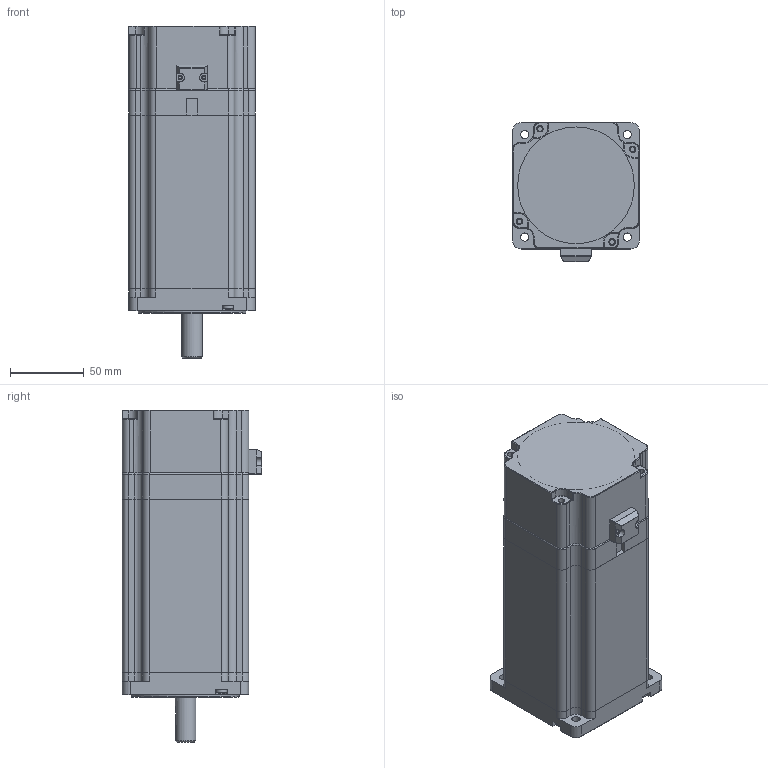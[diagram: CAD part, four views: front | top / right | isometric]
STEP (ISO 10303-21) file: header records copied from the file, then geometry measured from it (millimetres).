
FILE_DESCRIPTION (( 'STEP AP203' ), '1' );
FILE_NAME ('YK86HB156-4432K-01SC.STEP', '2020-01-03T08:14:30', ( '' ), ( '' ), 'SwSTEP 2.0', 'SolidWorks 2014', '' );
FILE_SCHEMA (( 'CONFIG_CONTROL_DESIGN' ));
Length unit declared in the file: millimetre
Products named in the file (19): 敕遠M4.0蹟佪; YK286ECXXA1粣郋; 86BK-揤盄輸; YK286ECXXA1隅赽; YK286ECXXA1綴裔; YK286ECXXA1ヶ裔; 86BK-綴欶; 86BK; YK86HB156-4432K-01SC
Assembly tree (11 placements, depth 3):
  敕遠M4.0蹟佪
  敕遠M4.0蹟佪
  86BK-揤盄輸
  YK286ECXXA1粣郋
  YK286ECXXA1ヶ裔
Bounding box: 86 x 95 x 225.5 mm (x, y, z)
Volume: 771966.3 mm3; surface area: 164047.5 mm2
Topology: 10 solids, 10 shells, 533 faces, 1257 edges, 741 vertices
Faces by surface type: plane 243, cylinder 196, torus 48, bspline 17, cone 16, sphere 13
Full cylindrical faces by diameter (mm): 2.05 x2, 3 x2, 3.3 x8, 4 x4, 4.4 x4, 4.5 x4, 5.5 x4, 7.2 x4, 14 x1, 15 x1, 16 x2, 35 x2, 55.96 x1, 73 x1
Entity records: 14856 total; most frequent: CARTESIAN_POINT 2775, DIRECTION 2258, ORIENTED_EDGE 2034, EDGE_CURVE 1017, AXIS2_PLACEMENT_3D 864, VERTEX_POINT 643, EDGE_LOOP 552, VECTOR 530
